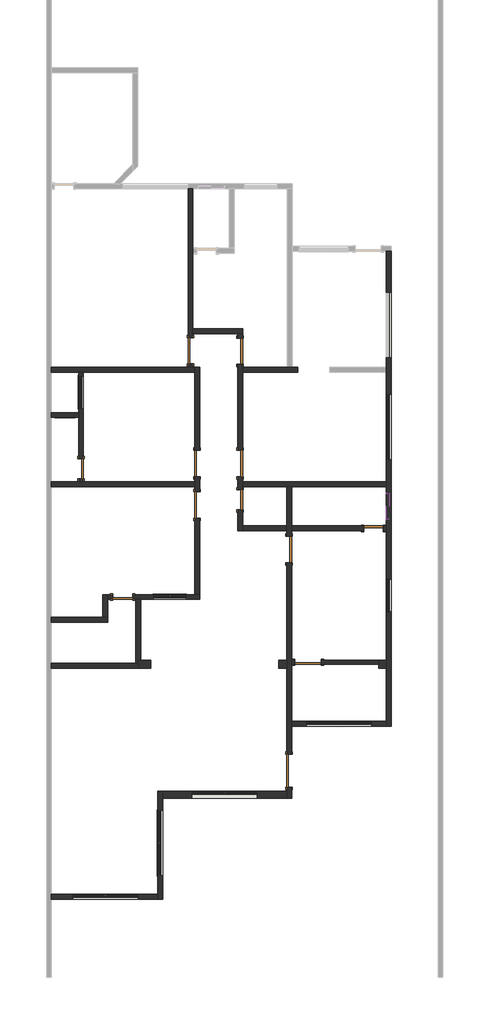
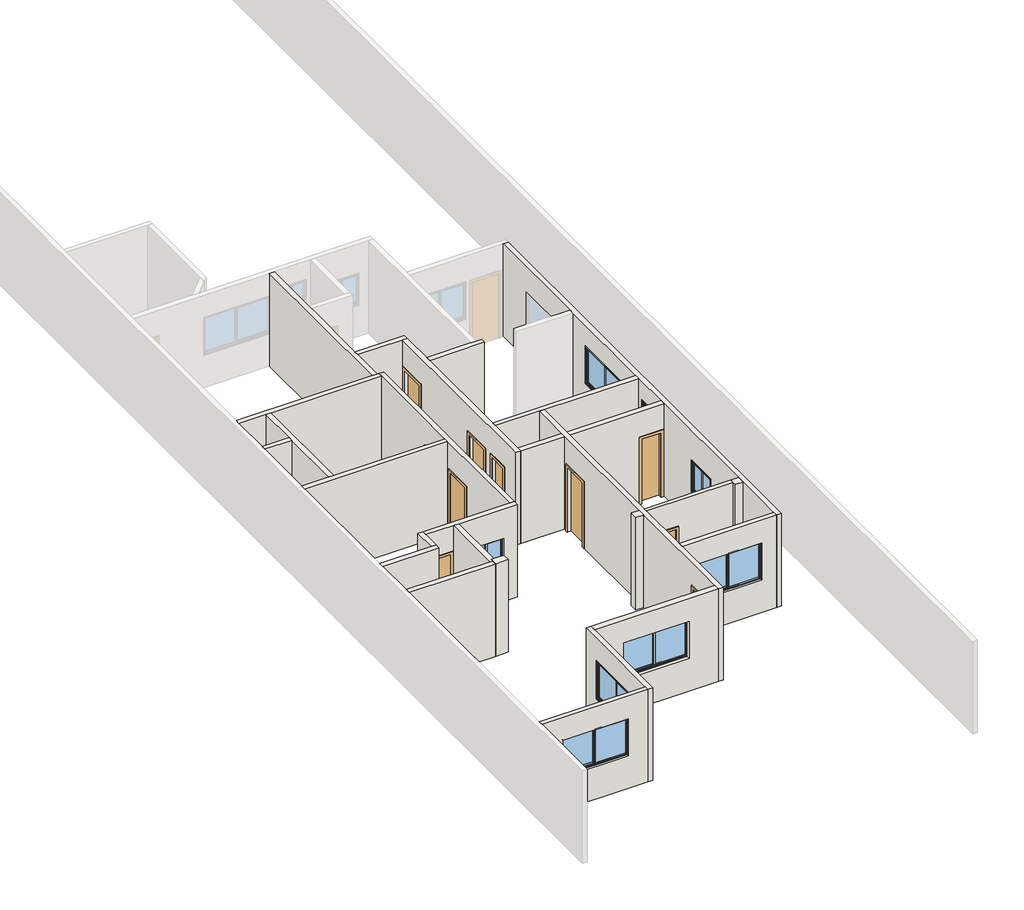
# One storey, part 1 of 2: 26 walls, 12 doors, 10 windows.
"""IFC4 building model written with IfcOpenShell, lengths in millimetres."""

from ifc_helpers import new_model, si_unit, frame, origin, origin_with_axes, place, context, project, spatial, polyline, outline, extrude, faceted_brep, transform, mapped, element, save
from components import door_0_60x2_10_8e608217, door_0_60x2_10_a66e64d3, door_0_80x2_10_8bd717ab, door_0_80x2_10_905e31af, door_0_80x2_10_4eece34f, door_1_00x2_20_66704a89, item_01_2f_janela_de_correr_aluminium_b1_a633d3a6, item_01_2f_janela_de_correr_aluminium_b2_8b62c7b2, item_01_2f_janela_de_correr_aluminium_j1_3e6ac885, item_01_2f_janela_de_correr_aluminium_j1_7eaab267, item_01_2f_janela_de_correr_aluminium_j3_e0c3c169

model = new_model("IFC4")

# Units and contexts
model_context = context("Model", 3, world=origin())
ifc_project = project(units=[si_unit("LENGTHUNIT", "METRE", prefix="MILLI")], contexts=[model_context])

# Site, building, storey
site = spatial("IfcSite", under=ifc_project)
building = spatial("IfcBuilding", under=site)
storey = spatial("IfcBuildingStorey", under=building, Name="Nível 1", Elevation=0.0)

# Doors
placement = place(None, origin())
door_0_60x2_10_shape = door_0_60x2_10_8e608217(model_context)
element("IfcDoor", 1, ObjectType="M_Folha única : 0.60X2.10", at=placement, inside=storey, context=model_context, shape_type="MappedRepresentation", body=[
    mapped(door_0_60x2_10_shape, transform((-3617.7973629, -10055.2839299, 0.0), x_axis=(1.0, 0.0, 0.0), y_axis=(0.0, 1.0, 0.0), z_axis=(0.0, 0.0, 1.0))),
])
element("IfcDoor", 2, ObjectType="M_Folha única : 0.60X2.10", at=placement, inside=storey, context=model_context, shape_type="MappedRepresentation", body=[
    mapped(door_0_60x2_10_shape, transform((-22.7973629, -7080.2839299, 0.0), x_axis=(0.0, 1.0, 0.0), y_axis=(-1.0, 0.0, 0.0), z_axis=(0.0, 0.0, 1.0))),
])
door_0_60x2_10_2_shape = door_0_60x2_10_a66e64d3(model_context)
element("IfcDoor", 3, ObjectType="M_Folha única : 0.60X2.10", at=placement, inside=storey, context=model_context, shape_type="MappedRepresentation", body=[
    mapped(door_0_60x2_10_2_shape, transform((-4892.7973629, -6130.2839299, 0.0), x_axis=(0.0, -1.0, 0.0), y_axis=(1.0, 0.0, 0.0), z_axis=(0.0, 0.0, 1.0))),
])
element("IfcDoor", 4, ObjectType="M_Folha única : 0.60X2.10", at=placement, inside=storey, context=model_context, shape_type="MappedRepresentation", body=[
    mapped(door_0_60x2_10_2_shape, transform((4052.2026371, -7955.2839299, 0.0), x_axis=(1.0, 0.0, 0.0), y_axis=(0.0, 1.0, 0.0), z_axis=(0.0, 0.0, 1.0))),
])
door_0_80x2_10_shape = door_0_80x2_10_8bd717ab(model_context)
element("IfcDoor", 5, ObjectType="M_Folha única : 0.80X2.10", at=placement, inside=storey, context=model_context, shape_type="MappedRepresentation", body=[
    mapped(door_0_80x2_10_shape, transform((-1342.7973629, -5970.2839299, 0.0), x_axis=(0.0, -1.0, 0.0), y_axis=(1.0, 0.0, 0.0), z_axis=(0.0, 0.0, 1.0))),
])
element("IfcDoor", 6, ObjectType="M_Folha única : 0.80X2.10", at=placement, inside=storey, context=model_context, shape_type="MappedRepresentation", body=[
    mapped(door_0_80x2_10_shape, transform((1477.2026371, -8600.2839299, 0.0), x_axis=(0.0, 1.0, 0.0), y_axis=(-1.0, 0.0, 0.0), z_axis=(0.0, 0.0, 1.0))),
])
element("IfcDoor", 7, ObjectType="M_Folha única : 0.80X2.10", at=placement, inside=storey, context=model_context, shape_type="MappedRepresentation", body=[
    mapped(door_0_80x2_10_shape, transform((-1542.7973629, -2515.2839299, 0.0), x_axis=(0.0, -1.0, 0.0), y_axis=(1.0, 0.0, 0.0), z_axis=(0.0, 0.0, 1.0))),
])
door_0_80x2_10_2_shape = door_0_80x2_10_905e31af(model_context)
element("IfcDoor", 8, ObjectType="M_Folha única : 0.80X2.10", at=placement, inside=storey, context=model_context, shape_type="MappedRepresentation", body=[
    mapped(door_0_80x2_10_2_shape, transform((-22.7973629, -5970.2839299, 0.0), x_axis=(0.0, -1.0, 0.0), y_axis=(1.0, 0.0, 0.0), z_axis=(0.0, 0.0, 1.0))),
])
element("IfcDoor", 9, ObjectType="M_Folha única : 0.80X2.10", at=placement, inside=storey, context=model_context, shape_type="MappedRepresentation", body=[
    mapped(door_0_80x2_10_2_shape, transform((-1342.7973629, -7240.2839299, 0.0), x_axis=(0.0, 1.0, 0.0), y_axis=(-1.0, 0.0, 0.0), z_axis=(0.0, 0.0, 1.0))),
])
element("IfcDoor", 10, ObjectType="M_Folha única : 0.80X2.10", at=placement, inside=storey, context=model_context, shape_type="MappedRepresentation", body=[
    mapped(door_0_80x2_10_2_shape, transform((-22.7973629, -2530.2839299, 0.0), x_axis=(0.0, -1.0, 0.0), y_axis=(1.0, 0.0, 0.0), z_axis=(0.0, 0.0, 1.0))),
])
door_0_80x2_10_3_shape = door_0_80x2_10_4eece34f(model_context)
element("IfcDoor", 11, ObjectType="M_Folha única : 0.80X2.10", at=placement, inside=storey, context=model_context, shape_type="MappedRepresentation", body=[
    mapped(door_0_80x2_10_3_shape, transform((2052.2026371, -12050.2839299, 0.0), x_axis=(-1.0, 0.0, 0.0), y_axis=(0.0, -1.0, 0.0), z_axis=(0.0, 0.0, 1.0))),
])
door_1_00x2_20_shape = door_1_00x2_20_66704a89(model_context)
element("IfcDoor", 12, ObjectType="M_Folha única : 1.00X2.20", at=placement, inside=storey, context=model_context, shape_type="MappedRepresentation", body=[
    mapped(door_1_00x2_20_shape, transform((1477.2026371, -15370.2839299, 0.0), x_axis=(0.0, -1.0, 0.0), y_axis=(1.0, 0.0, 0.0), z_axis=(0.0, 0.0, 1.0))),
])

# Walls
element("IfcWall", 13, ObjectType="PAREDE DIVISÓRIA", at=placement, inside=storey, context=model_context, shape_type="SweptSolid", body=[
    extrude(outline(polyline([(0.0, 1552.2026371), (0.0, 1652.2026371), (2100.0, 1652.2026371), (2100.0, 2452.2026371), (0.0, 2452.2026371), (0.0, 4212.2026371), (3000.0, 4212.2026371), (3000.0, 1552.2026371), (0.0, 1552.2026371)])), frame((0.0, -12110.2839299, 0.0), z_axis=(0.0, 1.0, 0.0), x_axis=(0.0, 0.0, 1.0)), (0.0, 0.0, 1.0), 120.0),
])
element("IfcWall", 14, ObjectType="Genérico - 200 mm", at=placement, inside=storey, context=model_context, shape_type="SweptSolid", body=[
    extrude(outline(polyline([(0.0, -2397.7973629), (0.0, 1402.2026371), (3000.0, 1402.2026371), (3000.0, -2397.7973629), (0.0, -2397.7973629)]), holes=[polyline([(1060.0, 502.2026371), (1060.0, -1497.7973629), (2260.0, -1497.7973629), (2260.0, 502.2026371), (1060.0, 502.2026371)])]), frame((0.0, -16205.2839299, 0.0), z_axis=(0.0, 1.0, 0.0), x_axis=(0.0, 0.0, 1.0)), (0.0, 0.0, 1.0), 200.0),
])
element("IfcWall", 15, ObjectType="PAREDE ALVENARIA", at=placement, inside=storey, context=model_context, shape_type="Brep", body=[
    faceted_brep([(4452.2026371, 519.7160701, 0.0), (4452.2026371, -3030.2839299, 0.0), (4452.2026371, -3180.2839299, 0.0), (4452.2026371, -6530.2839299, 0.0), (4452.2026371, -6680.2839299, 0.0), (4452.2026371, -7880.2839299, 0.0), (4452.2026371, -8030.2839299, 0.0), (4452.2026371, -11990.2839299, 0.0), (4452.2026371, -12230.2839299, 0.0), (4452.2026371, -13860.2839299, 0.0), (4452.2026371, -14010.2839299, 0.0), (4452.2026371, -14010.2839299, 3000.0), (4452.2026371, -13860.2839299, 3000.0), (4452.2026371, -12230.2839299, 3000.0), (4452.2026371, -11990.2839299, 3000.0), (4452.2026371, -8030.2839299, 3000.0), (4452.2026371, -7880.2839299, 3000.0), (4452.2026371, -6680.2839299, 3000.0), (4452.2026371, -6530.2839299, 3000.0), (4452.2026371, -3180.2839299, 3000.0), (4452.2026371, -3030.2839299, 3000.0), (4452.2026371, 519.7160701, 3000.0), (4452.2026371, -9510.2839299, 1040.0), (4452.2026371, -9510.2839299, 2040.0), (4452.2026371, -10510.2839299, 2040.0), (4452.2026371, -10510.2839299, 1040.0), (4452.2026371, -730.2839299, 960.0), (4452.2026371, -730.2839299, 2160.0), (4452.2026371, -2730.2839299, 2160.0), (4452.2026371, -2730.2839299, 960.0), (4452.2026371, -3855.2839299, 1120.0), (4452.2026371, -3855.2839299, 2320.0), (4452.2026371, -5855.2839299, 2320.0), (4452.2026371, -5855.2839299, 1120.0), (4452.2026371, -6880.2839299, 1800.0), (4452.2026371, -6880.2839299, 2400.0), (4452.2026371, -7680.2839299, 2400.0), (4452.2026371, -7680.2839299, 1800.0), (4602.2026371, 519.7160701, 0.0), (4602.2026371, 519.7160701, 3000.0), (4602.2026371, -14010.2839299, 3000.0), (4602.2026371, -14010.2839299, 0.0), (4602.2026371, -9510.2839299, 1040.0), (4602.2026371, -10510.2839299, 1040.0), (4602.2026371, -10510.2839299, 2040.0), (4602.2026371, -9510.2839299, 2040.0), (4602.2026371, -730.2839299, 960.0), (4602.2026371, -2730.2839299, 960.0), (4602.2026371, -2730.2839299, 2160.0), (4602.2026371, -730.2839299, 2160.0), (4602.2026371, -3855.2839299, 1120.0), (4602.2026371, -5855.2839299, 1120.0), (4602.2026371, -5855.2839299, 2320.0), (4602.2026371, -3855.2839299, 2320.0), (4602.2026371, -6880.2839299, 1800.0), (4602.2026371, -7680.2839299, 1800.0), (4602.2026371, -7680.2839299, 2400.0), (4602.2026371, -6880.2839299, 2400.0)], [[[0, 1, 2, 3, 4, 5, 6, 7, 8, 9, 10, 11, 12, 13, 14, 15, 16, 17, 18, 19, 20, 21], [22, 23, 24, 25], [26, 27, 28, 29], [30, 31, 32, 33], [34, 35, 36, 37]], [[38, 39, 40, 41], [42, 43, 44, 45], [46, 47, 48, 49], [50, 51, 52, 53], [54, 55, 56, 57]], [[10, 9, 8, 7, 6, 5, 4, 3, 2, 1, 0, 38, 41]], [[21, 20, 19, 18, 17, 16, 15, 14, 13, 12, 11, 40, 39]], [[0, 21, 39, 38]], [[11, 10, 41, 40]], [[23, 22, 42, 45]], [[24, 23, 45, 44]], [[25, 24, 44, 43]], [[22, 25, 43, 42]], [[27, 26, 46, 49]], [[28, 27, 49, 48]], [[29, 28, 48, 47]], [[26, 29, 47, 46]], [[31, 30, 50, 53]], [[32, 31, 53, 52]], [[33, 32, 52, 51]], [[30, 33, 51, 50]], [[35, 34, 54, 57]], [[36, 35, 57, 56]], [[37, 36, 56, 55]], [[34, 37, 55, 54]]]),
])
element("IfcWall", 16, ObjectType="PAREDE ALVENARIA", at=placement, inside=storey, context=model_context, shape_type="SweptSolid", body=[
    extrude(outline(polyline([(0.0, 4452.2026371), (3000.0, 4452.2026371), (3000.0, 1552.2026371), (0.0, 1552.2026371), (0.0, 4452.2026371)]), holes=[polyline([(1060.0, 4002.2026371), (1060.0, 2002.2026371), (2260.0, 2002.2026371), (2260.0, 4002.2026371), (1060.0, 4002.2026371)])]), frame((0.0, -14010.2839299, 0.0), z_axis=(0.0, 1.0, 0.0), x_axis=(0.0, 0.0, 1.0)), (0.0, 0.0, 1.0), 150.0),
])
element("IfcWall", 17, ObjectType="PAREDE ALVENARIA", at=placement, inside=storey, context=model_context, shape_type="Brep", body=[
    faceted_brep([(1402.2026371, -15870.2839299, 2200.0), (1402.2026371, -15870.2839299, 0.0), (1402.2026371, -16005.2839299, 0.0), (1402.2026371, -16205.2839299, 0.0), (1402.2026371, -16205.2839299, 3000.0), (1402.2026371, -16005.2839299, 3000.0), (1402.2026371, -12230.2839299, 3000.0), (1402.2026371, -11990.2839299, 3000.0), (1402.2026371, -8030.2839299, 3000.0), (1402.2026371, -7880.2839299, 3000.0), (1402.2026371, -6680.2839299, 3000.0), (1402.2026371, -6680.2839299, 0.0), (1402.2026371, -7880.2839299, 0.0), (1402.2026371, -8030.2839299, 0.0), (1402.2026371, -8200.2839299, 0.0), (1402.2026371, -8200.2839299, 2100.0), (1402.2026371, -9000.2839299, 2100.0), (1402.2026371, -9000.2839299, 0.0), (1402.2026371, -11990.2839299, 0.0), (1402.2026371, -12230.2839299, 0.0), (1402.2026371, -14870.2839299, 0.0), (1402.2026371, -14870.2839299, 2200.0), (1552.2026371, -16205.2839299, 0.0), (1552.2026371, -15870.2839299, 0.0), (1552.2026371, -15870.2839299, 2200.0), (1552.2026371, -14870.2839299, 2200.0), (1552.2026371, -14870.2839299, 0.0), (1552.2026371, -14010.2839299, 0.0), (1552.2026371, -13860.2839299, 0.0), (1552.2026371, -12110.2839299, 0.0), (1552.2026371, -11990.2839299, 0.0), (1552.2026371, -9000.2839299, 0.0), (1552.2026371, -9000.2839299, 2100.0), (1552.2026371, -8200.2839299, 2100.0), (1552.2026371, -8200.2839299, 0.0), (1552.2026371, -8030.2839299, 0.0), (1552.2026371, -7880.2839299, 0.0), (1552.2026371, -6680.2839299, 0.0), (1552.2026371, -6680.2839299, 3000.0), (1552.2026371, -7880.2839299, 3000.0), (1552.2026371, -8030.2839299, 3000.0), (1552.2026371, -11990.2839299, 3000.0), (1552.2026371, -12110.2839299, 3000.0), (1552.2026371, -13860.2839299, 3000.0), (1552.2026371, -14010.2839299, 3000.0), (1552.2026371, -16205.2839299, 3000.0)], [[[0, 1, 2, 3, 4, 5, 6, 7, 8, 9, 10, 11, 12, 13, 14, 15, 16, 17, 18, 19, 20, 21]], [[22, 23, 24, 25, 26, 27, 28, 29, 30, 31, 32, 33, 34, 35, 36, 37, 38, 39, 40, 41, 42, 43, 44, 45]], [[37, 36, 35, 34, 14, 13, 12, 11]], [[3, 2, 1, 23, 22]], [[20, 19, 18, 17, 31, 30, 29, 28, 27, 26]], [[10, 9, 8, 7, 6, 5, 4, 45, 44, 43, 42, 41, 40, 39, 38]], [[11, 10, 38, 37]], [[15, 14, 34, 33]], [[16, 15, 33, 32]], [[17, 16, 32, 31]], [[24, 23, 1, 0]], [[25, 24, 0, 21]], [[26, 25, 21, 20]], [[4, 3, 22, 45]]]),
])
element("IfcWall", 18, ObjectType="PAREDE ALVENARIA", at=placement, inside=storey, context=model_context, shape_type="Brep", body=[
    faceted_brep([(-2547.7973629, -16005.2839299, 0.0), (-2547.7973629, -19150.2839299, 0.0), (-2547.7973629, -19300.2839299, 0.0), (-2547.7973629, -19300.2839299, 3000.0), (-2547.7973629, -19150.2839299, 3000.0), (-2547.7973629, -16005.2839299, 3000.0), (-2547.7973629, -16580.2839299, 1060.0), (-2547.7973629, -16580.2839299, 2260.0), (-2547.7973629, -18580.2839299, 2260.0), (-2547.7973629, -18580.2839299, 1060.0), (-2397.7973629, -16005.2839299, 0.0), (-2397.7973629, -16005.2839299, 3000.0), (-2397.7973629, -16205.2839299, 3000.0), (-2397.7973629, -19300.2839299, 3000.0), (-2397.7973629, -19300.2839299, 0.0), (-2397.7973629, -16205.2839299, 0.0), (-2397.7973629, -16580.2839299, 1060.0), (-2397.7973629, -18580.2839299, 1060.0), (-2397.7973629, -18580.2839299, 2260.0), (-2397.7973629, -16580.2839299, 2260.0)], [[[0, 1, 2, 3, 4, 5], [6, 7, 8, 9]], [[10, 11, 12, 13, 14, 15], [16, 17, 18, 19]], [[2, 1, 0, 10, 15, 14]], [[5, 4, 3, 13, 12, 11]], [[3, 2, 14, 13]], [[7, 6, 16, 19]], [[8, 7, 19, 18]], [[9, 8, 18, 17]], [[6, 9, 17, 16]], [[0, 5, 11, 10]]]),
])
element("IfcWall", 19, ObjectType="PAREDE ALVENARIA", at=placement, inside=storey, context=model_context, shape_type="SweptSolid", body=[
    extrude(outline(polyline([(0.0, -2547.7973629), (3000.0, -2547.7973629), (3000.0, -5797.7973629), (0.0, -5797.7973629), (0.0, -2547.7973629)]), holes=[polyline([(1060.0, -3147.7973629), (1060.0, -5147.7973629), (2260.0, -5147.7973629), (2260.0, -3147.7973629), (1060.0, -3147.7973629)])]), frame((0.0, -19300.2839299, 0.0), z_axis=(0.0, 1.0, 0.0), x_axis=(0.0, 0.0, 1.0)), (0.0, 0.0, 1.0), 150.0),
])
element("IfcWall", 20, ObjectType="PAREDE ALVENARIA", at=placement, inside=storey, context=model_context, shape_type="Brep", body=[
    faceted_brep([(-5797.7973629, -12230.2839299, 0.0), (-3142.7973629, -12230.2839299, 0.0), (-3142.7973629, -12230.2839299, 3000.0), (-5797.7973629, -12230.2839299, 3000.0), (-5797.7973629, -12080.2839299, 0.0), (-5797.7973629, -12080.2839299, 3000.0), (-3217.7973629, -12080.2839299, 3000.0), (-3142.7973629, -12080.2839299, 3000.0), (-3142.7973629, -12080.2839299, 0.0), (-3217.7973629, -12080.2839299, 0.0)], [[[0, 1, 2, 3]], [[4, 5, 6, 7, 8, 9]], [[1, 0, 4, 9, 8]], [[2, 1, 8, 7]], [[3, 2, 7, 6, 5]], [[0, 3, 5, 4]]]),
])
element("IfcWall", 21, ObjectType="PAREDE ALVENARIA", at=placement, inside=storey, context=model_context, shape_type="SweptSolid", body=[
    extrude(outline(polyline([(-3067.7973629, -10130.2839299), (-3067.7973629, -11990.2839299), (-3142.7973629, -11990.2839299), (-3142.7973629, -12080.2839299), (-3217.7973629, -12080.2839299), (-3217.7973629, -10130.2839299), (-3067.7973629, -10130.2839299)])), origin_with_axes(), (0.0, 0.0, 1.0), 3000.0),
])
element("IfcWall", 22, ObjectType="PAREDE ALVENARIA", at=placement, inside=storey, context=model_context, shape_type="Brep", body=[
    faceted_brep([(-5797.7973629, -10830.2839299, 0.0), (-4077.7973629, -10830.2839299, 0.0), (-4077.7973629, -10830.2839299, 3000.0), (-5797.7973629, -10830.2839299, 3000.0), (-5797.7973629, -10680.2839299, 0.0), (-5797.7973629, -10680.2839299, 3000.0), (-4227.7973629, -10680.2839299, 3000.0), (-4077.7973629, -10680.2839299, 3000.0), (-4077.7973629, -10680.2839299, 0.0), (-4227.7973629, -10680.2839299, 0.0)], [[[0, 1, 2, 3]], [[4, 5, 6, 7, 8, 9]], [[1, 0, 4, 9, 8]], [[3, 2, 7, 6, 5]], [[2, 1, 8, 7]], [[0, 3, 5, 4]]]),
])
element("IfcWall", 23, ObjectType="PAREDE ALVENARIA", at=placement, inside=storey, context=model_context, shape_type="Brep", body=[
    faceted_brep([(-4077.7973629, -10680.2839299, 0.0), (-4077.7973629, -10130.2839299, 0.0), (-4077.7973629, -9980.2839299, 0.0), (-4077.7973629, -9980.2839299, 3000.0), (-4077.7973629, -10130.2839299, 3000.0), (-4077.7973629, -10680.2839299, 3000.0), (-4227.7973629, -10680.2839299, 0.0), (-4227.7973629, -10680.2839299, 3000.0), (-4227.7973629, -9980.2839299, 3000.0), (-4227.7973629, -9980.2839299, 0.0)], [[[0, 1, 2, 3, 4, 5]], [[6, 7, 8, 9]], [[2, 1, 0, 6, 9]], [[5, 4, 3, 8, 7]], [[0, 5, 7, 6]], [[3, 2, 9, 8]]]),
])
element("IfcWall", 24, ObjectType="PAREDE ALVENARIA", at=placement, inside=storey, context=model_context, shape_type="Brep", body=[
    faceted_brep([(-3317.7973629, -10130.2839299, 2100.0), (-3317.7973629, -10130.2839299, 0.0), (-3217.7973629, -10130.2839299, 0.0), (-3067.7973629, -10130.2839299, 0.0), (-1267.7973629, -10130.2839299, 0.0), (-1267.7973629, -10130.2839299, 3000.0), (-3067.7973629, -10130.2839299, 3000.0), (-3217.7973629, -10130.2839299, 3000.0), (-4077.7973629, -10130.2839299, 3000.0), (-4077.7973629, -10130.2839299, 0.0), (-3917.7973629, -10130.2839299, 0.0), (-3917.7973629, -10130.2839299, 2100.0), (-1677.7973629, -10130.2839299, 1040.0), (-2677.7973629, -10130.2839299, 1040.0), (-2677.7973629, -10130.2839299, 2040.0), (-1677.7973629, -10130.2839299, 2040.0), (-1267.7973629, -9980.2839299, 0.0), (-1417.7973629, -9980.2839299, 0.0), (-3317.7973629, -9980.2839299, 0.0), (-3317.7973629, -9980.2839299, 2100.0), (-3917.7973629, -9980.2839299, 2100.0), (-3917.7973629, -9980.2839299, 0.0), (-4077.7973629, -9980.2839299, 0.0), (-4077.7973629, -9980.2839299, 3000.0), (-1417.7973629, -9980.2839299, 3000.0), (-1267.7973629, -9980.2839299, 3000.0), (-1677.7973629, -9980.2839299, 1040.0), (-1677.7973629, -9980.2839299, 2040.0), (-2677.7973629, -9980.2839299, 2040.0), (-2677.7973629, -9980.2839299, 1040.0)], [[[0, 1, 2, 3, 4, 5, 6, 7, 8, 9, 10, 11], [12, 13, 14, 15]], [[16, 17, 18, 19, 20, 21, 22, 23, 24, 25], [26, 27, 28, 29]], [[10, 9, 22, 21]], [[4, 3, 2, 1, 18, 17, 16]], [[8, 7, 6, 5, 25, 24, 23]], [[9, 8, 23, 22]], [[5, 4, 16, 25]], [[19, 18, 1, 0]], [[20, 19, 0, 11]], [[21, 20, 11, 10]], [[27, 26, 12, 15]], [[28, 27, 15, 14]], [[29, 28, 14, 13]], [[26, 29, 13, 12]]]),
])
element("IfcWall", 25, ObjectType="PAREDE ALVENARIA", at=placement, inside=storey, context=model_context, shape_type="Brep", body=[
    faceted_brep([(-1267.7973629, -6840.2839299, 2100.0), (-1267.7973629, -6840.2839299, 0.0), (-1267.7973629, -6370.2839299, 0.0), (-1267.7973629, -6370.2839299, 2100.0), (-1267.7973629, -5570.2839299, 2100.0), (-1267.7973629, -5570.2839299, 0.0), (-1267.7973629, -3030.2839299, 0.0), (-1267.7973629, -3030.2839299, 3000.0), (-1267.7973629, -9980.2839299, 3000.0), (-1267.7973629, -9980.2839299, 0.0), (-1267.7973629, -7640.2839299, 0.0), (-1267.7973629, -7640.2839299, 2100.0), (-1417.7973629, -6370.2839299, 0.0), (-1417.7973629, -6530.2839299, 0.0), (-1417.7973629, -6680.2839299, 0.0), (-1417.7973629, -6840.2839299, 0.0), (-1417.7973629, -6840.2839299, 2100.0), (-1417.7973629, -7640.2839299, 2100.0), (-1417.7973629, -7640.2839299, 0.0), (-1417.7973629, -9980.2839299, 0.0), (-1417.7973629, -9980.2839299, 3000.0), (-1417.7973629, -6680.2839299, 3000.0), (-1417.7973629, -6530.2839299, 3000.0), (-1417.7973629, -3180.2839299, 3000.0), (-1417.7973629, -3030.2839299, 3000.0), (-1417.7973629, -3030.2839299, 0.0), (-1417.7973629, -3180.2839299, 0.0), (-1417.7973629, -5570.2839299, 0.0), (-1417.7973629, -5570.2839299, 2100.0), (-1417.7973629, -6370.2839299, 2100.0)], [[[0, 1, 2, 3, 4, 5, 6, 7, 8, 9, 10, 11]], [[12, 13, 14, 15, 16, 17, 18, 19, 20, 21, 22, 23, 24, 25, 26, 27, 28, 29]], [[27, 26, 25, 6, 5]], [[10, 9, 19, 18]], [[2, 1, 15, 14, 13, 12]], [[8, 7, 24, 23, 22, 21, 20]], [[9, 8, 20, 19]], [[7, 6, 25, 24]], [[3, 2, 12, 29]], [[4, 3, 29, 28]], [[5, 4, 28, 27]], [[16, 15, 1, 0]], [[17, 16, 0, 11]], [[18, 17, 11, 10]]]),
])
element("IfcWall", 26, ObjectType="PAREDE ALVENARIA", at=placement, inside=storey, context=model_context, shape_type="Brep", body=[
    faceted_brep([(-5797.7973629, -6680.2839299, 0.0), (-1417.7973629, -6680.2839299, 0.0), (-1417.7973629, -6680.2839299, 3000.0), (-5797.7973629, -6680.2839299, 3000.0), (-5797.7973629, -6530.2839299, 0.0), (-5797.7973629, -6530.2839299, 3000.0), (-4967.7973629, -6530.2839299, 3000.0), (-4817.7973629, -6530.2839299, 3000.0), (-1417.7973629, -6530.2839299, 3000.0), (-1417.7973629, -6530.2839299, 0.0), (-4817.7973629, -6530.2839299, 0.0), (-4967.7973629, -6530.2839299, 0.0)], [[[0, 1, 2, 3]], [[4, 5, 6, 7, 8, 9, 10, 11]], [[1, 0, 4, 11, 10, 9]], [[3, 2, 8, 7, 6, 5]], [[2, 1, 9, 8]], [[0, 3, 5, 4]]]),
])
element("IfcWall", 27, ObjectType="PAREDE ALVENARIA", at=placement, inside=storey, context=model_context, shape_type="Brep", body=[
    faceted_brep([(-5797.7973629, -3180.2839299, 0.0), (-4967.7973629, -3180.2839299, 0.0), (-4817.7973629, -3180.2839299, 0.0), (-1417.7973629, -3180.2839299, 0.0), (-1417.7973629, -3180.2839299, 3000.0), (-4817.7973629, -3180.2839299, 3000.0), (-4967.7973629, -3180.2839299, 3000.0), (-5797.7973629, -3180.2839299, 3000.0), (-5797.7973629, -3030.2839299, 0.0), (-5797.7973629, -3030.2839299, 3000.0), (-1617.7973629, -3030.2839299, 3000.0), (-1467.7973629, -3030.2839299, 3000.0), (-1417.7973629, -3030.2839299, 3000.0), (-1417.7973629, -3030.2839299, 0.0), (-1467.7973629, -3030.2839299, 0.0), (-1617.7973629, -3030.2839299, 0.0)], [[[0, 1, 2, 3, 4, 5, 6, 7]], [[8, 9, 10, 11, 12, 13, 14, 15]], [[3, 2, 1, 0, 8, 15, 14, 13]], [[7, 6, 5, 4, 12, 11, 10, 9]], [[4, 3, 13, 12]], [[0, 7, 9, 8]]]),
])
element("IfcWall", 28, ObjectType="PAREDE ALVENARIA", at=placement, inside=storey, context=model_context, shape_type="Brep", body=[
    faceted_brep([(-1467.7973629, -3030.2839299, 0.0), (-1467.7973629, -2915.2839299, 0.0), (-1467.7973629, -2915.2839299, 2100.0), (-1467.7973629, -2115.2839299, 2100.0), (-1467.7973629, -2115.2839299, 0.0), (-1467.7973629, -2000.2839299, 0.0), (-1467.7973629, -1850.2839299, 0.0), (-1467.7973629, 459.7160701, 0.0), (-1467.7973629, 609.7160701, 0.0), (-1467.7973629, 2439.7160701, 0.0), (-1467.7973629, 2439.7160701, 3000.0), (-1467.7973629, 609.7160701, 3000.0), (-1467.7973629, 459.7160701, 3000.0), (-1467.7973629, -1850.2839299, 3000.0), (-1467.7973629, -2000.2839299, 3000.0), (-1467.7973629, -3030.2839299, 3000.0), (-1617.7973629, -2915.2839299, 2100.0), (-1617.7973629, -2915.2839299, 0.0), (-1617.7973629, -3030.2839299, 0.0), (-1617.7973629, -3030.2839299, 3000.0), (-1617.7973629, 2439.7160701, 3000.0), (-1617.7973629, 2439.7160701, 2260.0), (-1617.7973629, 2439.7160701, 1060.0), (-1617.7973629, 2439.7160701, 0.0), (-1617.7973629, -2115.2839299, 0.0), (-1617.7973629, -2115.2839299, 2100.0)], [[[0, 1, 2, 3, 4, 5, 6, 7, 8, 9, 10, 11, 12, 13, 14, 15]], [[16, 17, 18, 19, 20, 21, 22, 23, 24, 25]], [[24, 23, 9, 8, 7, 6, 5, 4]], [[18, 17, 1, 0]], [[15, 14, 13, 12, 11, 10, 20, 19]], [[10, 9, 23, 22, 21, 20]], [[0, 15, 19, 18]], [[2, 1, 17, 16]], [[3, 2, 16, 25]], [[4, 3, 25, 24]]]),
])
element("IfcWall", 29, ObjectType="PAREDE ALVENARIA", at=placement, inside=storey, context=model_context, shape_type="Brep", body=[
    faceted_brep([(-1467.7973629, -2000.2839299, 0.0), (-97.7973629, -2000.2839299, 0.0), (52.2026371, -2000.2839299, 0.0), (52.2026371, -2000.2839299, 3000.0), (-97.7973629, -2000.2839299, 3000.0), (-1467.7973629, -2000.2839299, 3000.0), (-1467.7973629, -1850.2839299, 0.0), (-1467.7973629, -1850.2839299, 3000.0), (52.2026371, -1850.2839299, 3000.0), (52.2026371, -1850.2839299, 0.0)], [[[0, 1, 2, 3, 4, 5]], [[6, 7, 8, 9]], [[2, 1, 0, 6, 9]], [[5, 4, 3, 8, 7]], [[0, 5, 7, 6]], [[3, 2, 9, 8]]]),
])
element("IfcWall", 30, ObjectType="PAREDE ALVENARIA", at=placement, inside=storey, context=model_context, shape_type="Brep", body=[
    faceted_brep([(-97.7973629, -6370.2839299, 0.0), (-97.7973629, -6780.2839299, 0.0), (-97.7973629, -6780.2839299, 2100.0), (-97.7973629, -7380.2839299, 2100.0), (-97.7973629, -7380.2839299, 0.0), (-97.7973629, -8030.2839299, 0.0), (-97.7973629, -8030.2839299, 3000.0), (-97.7973629, -2000.2839299, 3000.0), (-97.7973629, -2000.2839299, 0.0), (-97.7973629, -2130.2839299, 0.0), (-97.7973629, -2130.2839299, 2100.0), (-97.7973629, -2930.2839299, 2100.0), (-97.7973629, -2930.2839299, 0.0), (-97.7973629, -5570.2839299, 0.0), (-97.7973629, -5570.2839299, 2100.0), (-97.7973629, -6370.2839299, 2100.0), (52.2026371, -6780.2839299, 2100.0), (52.2026371, -6780.2839299, 0.0), (52.2026371, -6680.2839299, 0.0), (52.2026371, -6530.2839299, 0.0), (52.2026371, -6370.2839299, 0.0), (52.2026371, -6370.2839299, 2100.0), (52.2026371, -5570.2839299, 2100.0), (52.2026371, -5570.2839299, 0.0), (52.2026371, -3180.2839299, 0.0), (52.2026371, -3030.2839299, 0.0), (52.2026371, -2930.2839299, 0.0), (52.2026371, -2930.2839299, 2100.0), (52.2026371, -2130.2839299, 2100.0), (52.2026371, -2130.2839299, 0.0), (52.2026371, -2000.2839299, 0.0), (52.2026371, -2000.2839299, 3000.0), (52.2026371, -3030.2839299, 3000.0), (52.2026371, -3180.2839299, 3000.0), (52.2026371, -6530.2839299, 3000.0), (52.2026371, -6680.2839299, 3000.0), (52.2026371, -7880.2839299, 3000.0), (52.2026371, -8030.2839299, 3000.0), (52.2026371, -8030.2839299, 0.0), (52.2026371, -7880.2839299, 0.0), (52.2026371, -7380.2839299, 0.0), (52.2026371, -7380.2839299, 2100.0)], [[[0, 1, 2, 3, 4, 5, 6, 7, 8, 9, 10, 11, 12, 13, 14, 15]], [[16, 17, 18, 19, 20, 21, 22, 23, 24, 25, 26, 27, 28, 29, 30, 31, 32, 33, 34, 35, 36, 37, 38, 39, 40, 41]], [[9, 8, 30, 29]], [[13, 12, 26, 25, 24, 23]], [[40, 39, 38, 5, 4]], [[20, 19, 18, 17, 1, 0]], [[7, 6, 37, 36, 35, 34, 33, 32, 31]], [[8, 7, 31, 30]], [[6, 5, 38, 37]], [[21, 20, 0, 15]], [[22, 21, 15, 14]], [[23, 22, 14, 13]], [[27, 26, 12, 11]], [[28, 27, 11, 10]], [[29, 28, 10, 9]], [[2, 1, 17, 16]], [[3, 2, 16, 41]], [[4, 3, 41, 40]]]),
])
element("IfcWall", 31, ObjectType="PAREDE ALVENARIA", at=placement, inside=storey, context=model_context, shape_type="Brep", body=[
    faceted_brep([(52.2026371, -3180.2839299, 0.0), (1737.2026371, -3180.2839299, 0.0), (1737.2026371, -3180.2839299, 3000.0), (52.2026371, -3180.2839299, 3000.0), (52.2026371, -3030.2839299, 0.0), (52.2026371, -3030.2839299, 3000.0), (1422.2026371, -3030.2839299, 3000.0), (1572.2026371, -3030.2839299, 3000.0), (1737.2026371, -3030.2839299, 3000.0), (1737.2026371, -3030.2839299, 0.0), (1572.2026371, -3030.2839299, 0.0), (1422.2026371, -3030.2839299, 0.0)], [[[0, 1, 2, 3]], [[4, 5, 6, 7, 8, 9, 10, 11]], [[1, 0, 4, 11, 10, 9]], [[2, 1, 9, 8]], [[3, 2, 8, 7, 6, 5]], [[0, 3, 5, 4]]]),
])
element("IfcWall", 32, ObjectType="PAREDE ALVENARIA", at=placement, inside=storey, context=model_context, shape_type="SweptSolid", body=[
    extrude(outline(polyline([(0.0, 4452.2026371), (3000.0, 4452.2026371), (3000.0, 1552.2026371), (0.0, 1552.2026371), (0.0, 3752.2026371), (2100.0, 3752.2026371), (2100.0, 4352.2026371), (0.0, 4352.2026371), (0.0, 4452.2026371)])), frame((0.0, -8030.2839299, 0.0), z_axis=(0.0, 1.0, 0.0), x_axis=(0.0, 0.0, 1.0)), (0.0, 0.0, 1.0), 150.0),
    extrude(outline(polyline([(52.2026371, -8030.2839299), (52.2026371, -7880.2839299), (1402.2026371, -7880.2839299), (1402.2026371, -8030.2839299), (52.2026371, -8030.2839299)])), origin_with_axes(), (0.0, 0.0, 1.0), 3000.0),
])
element("IfcWall", 33, ObjectType="PAREDE ALVENARIA", at=placement, inside=storey, context=model_context, shape_type="Brep", body=[
    faceted_brep([(52.2026371, -6680.2839299, 0.0), (1402.2026371, -6680.2839299, 0.0), (1552.2026371, -6680.2839299, 0.0), (4452.2026371, -6680.2839299, 0.0), (4452.2026371, -6680.2839299, 3000.0), (1552.2026371, -6680.2839299, 3000.0), (1402.2026371, -6680.2839299, 3000.0), (52.2026371, -6680.2839299, 3000.0), (52.2026371, -6530.2839299, 0.0), (52.2026371, -6530.2839299, 3000.0), (4452.2026371, -6530.2839299, 3000.0), (4452.2026371, -6530.2839299, 0.0)], [[[0, 1, 2, 3, 4, 5, 6, 7]], [[8, 9, 10, 11]], [[3, 2, 1, 0, 8, 11]], [[7, 6, 5, 4, 10, 9]], [[4, 3, 11, 10]], [[0, 7, 9, 8]]]),
])
element("IfcWall", 34, ObjectType="PAREDE ALVENARIA", at=placement, inside=storey, context=model_context, shape_type="Brep", body=[
    faceted_brep([(-4967.7973629, -6430.2839299, 2100.0), (-4967.7973629, -6430.2839299, 0.0), (-4967.7973629, -6530.2839299, 0.0), (-4967.7973629, -6530.2839299, 3000.0), (-4967.7973629, -4560.2839299, 3000.0), (-4967.7973629, -4410.2839299, 3000.0), (-4967.7973629, -3180.2839299, 3000.0), (-4967.7973629, -3180.2839299, 0.0), (-4967.7973629, -4410.2839299, 0.0), (-4967.7973629, -4560.2839299, 0.0), (-4967.7973629, -5830.2839299, 0.0), (-4967.7973629, -5830.2839299, 2100.0), (-4967.7973629, -3295.2839299, 1040.0), (-4967.7973629, -3295.2839299, 2040.0), (-4967.7973629, -4295.2839299, 2040.0), (-4967.7973629, -4295.2839299, 1040.0), (-4817.7973629, -6530.2839299, 0.0), (-4817.7973629, -6430.2839299, 0.0), (-4817.7973629, -6430.2839299, 2100.0), (-4817.7973629, -5830.2839299, 2100.0), (-4817.7973629, -5830.2839299, 0.0), (-4817.7973629, -3180.2839299, 0.0), (-4817.7973629, -3180.2839299, 3000.0), (-4817.7973629, -6530.2839299, 3000.0), (-4817.7973629, -3295.2839299, 1040.0), (-4817.7973629, -4295.2839299, 1040.0), (-4817.7973629, -4295.2839299, 2040.0), (-4817.7973629, -3295.2839299, 2040.0)], [[[0, 1, 2, 3, 4, 5, 6, 7, 8, 9, 10, 11], [12, 13, 14, 15]], [[16, 17, 18, 19, 20, 21, 22, 23], [24, 25, 26, 27]], [[2, 1, 17, 16]], [[10, 9, 8, 7, 21, 20]], [[6, 5, 4, 3, 23, 22]], [[3, 2, 16, 23]], [[7, 6, 22, 21]], [[18, 17, 1, 0]], [[19, 18, 0, 11]], [[20, 19, 11, 10]], [[13, 12, 24, 27]], [[14, 13, 27, 26]], [[15, 14, 26, 25]], [[12, 15, 25, 24]]]),
])
element("IfcWall", 35, ObjectType="PAREDE ALVENARIA", at=placement, inside=storey, context=model_context, shape_type="SweptSolid", body=[
    extrude(outline(polyline([(0.0, -5797.7973629), (0.0, -4967.7973629), (3000.0, -4967.7973629), (3000.0, -5797.7973629), (0.0, -5797.7973629)]), holes=[polyline([(800.0, -5682.7973629), (1200.0, -5682.7973629), (1200.0, -5082.7973629), (800.0, -5082.7973629), (800.0, -5682.7973629)])]), frame((0.0, -4560.2839299, 0.0), z_axis=(0.0, 1.0, 0.0), x_axis=(0.0, 0.0, 1.0)), (0.0, 0.0, 1.0), 150.0),
])
element("IfcWall", 36, ObjectType="PILAR", at=placement, inside=storey, context=model_context, shape_type="Brep", body=[
    faceted_brep([(4212.2026371, -12230.2839299, 0.0), (4452.2026371, -12230.2839299, 0.0), (4452.2026371, -12230.2839299, 3000.0), (4212.2026371, -12230.2839299, 3000.0), (4212.2026371, -11990.2839299, 0.0), (4212.2026371, -11990.2839299, 3000.0), (4452.2026371, -11990.2839299, 3000.0), (4452.2026371, -11990.2839299, 0.0), (4212.2026371, -12110.2839299, 0.0), (4212.2026371, -12110.2839299, 3000.0)], [[[0, 1, 2, 3]], [[4, 5, 6, 7]], [[1, 0, 8, 4, 7]], [[3, 2, 6, 5, 9]], [[0, 3, 9, 5, 4, 8]], [[2, 1, 7, 6]]]),
])
element("IfcWall", 37, ObjectType="PILAR", at=placement, inside=storey, context=model_context, shape_type="SweptSolid", body=[
    extrude(outline(polyline([(1402.2026371, -12230.2839299), (1162.2026371, -12230.2839299), (1162.2026371, -11990.2839299), (1402.2026371, -11990.2839299), (1402.2026371, -12230.2839299)])), origin_with_axes(), (0.0, 0.0, 1.0), 3000.0),
])
element("IfcWall", 38, ObjectType="PILAR", at=placement, inside=storey, context=model_context, shape_type="Brep", body=[
    faceted_brep([(-2757.7973629, -11990.2839299, 0.0), (-3067.7973629, -11990.2839299, 0.0), (-3142.7973629, -11990.2839299, 0.0), (-3142.7973629, -11990.2839299, 3000.0), (-3067.7973629, -11990.2839299, 3000.0), (-2757.7973629, -11990.2839299, 3000.0), (-2757.7973629, -12230.2839299, 0.0), (-2757.7973629, -12230.2839299, 3000.0), (-3142.7973629, -12230.2839299, 3000.0), (-3142.7973629, -12230.2839299, 0.0), (-3142.7973629, -12080.2839299, 0.0), (-3142.7973629, -12080.2839299, 3000.0)], [[[0, 1, 2, 3, 4, 5]], [[6, 7, 8, 9]], [[2, 1, 0, 6, 9, 10]], [[3, 2, 10, 9, 8, 11]], [[5, 4, 3, 11, 8, 7]], [[0, 5, 7, 6]]]),
])

# Windows
item_01_2f_janela_de_correr_aluminium_b1_shape = item_01_2f_janela_de_correr_aluminium_b1_a633d3a6(model_context)
element("IfcWindow", 39, ObjectType="Item 01 - 2F Janela de correr Aluminium : B1", at=placement, inside=storey, context=model_context, shape_type="MappedRepresentation", body=[
    mapped(item_01_2f_janela_de_correr_aluminium_b1_shape, transform((4527.2026371, -7280.2839299, 1000.0), x_axis=(0.0, -1.0, 0.0), y_axis=(1.0, 0.0, 0.0), z_axis=(0.0, 0.0, 1.0))),
])
item_01_2f_janela_de_correr_aluminium_b2_shape = item_01_2f_janela_de_correr_aluminium_b2_8b62c7b2(model_context)
element("IfcWindow", 40, ObjectType="Item 01 - 2F Janela de correr Aluminium : B2", at=placement, inside=storey, context=model_context, shape_type="MappedRepresentation", body=[
    mapped(item_01_2f_janela_de_correr_aluminium_b2_shape, transform((-5382.7973629, -4485.2839299, 0.0), x_axis=(1.0, 0.0, 0.0), y_axis=(0.0, 1.0, 0.0), z_axis=(0.0, 0.0, 1.0))),
])
item_01_2f_janela_de_correr_aluminium_j1_shape = item_01_2f_janela_de_correr_aluminium_j1_3e6ac885(model_context)
element("IfcWindow", 41, ObjectType="Item 01 - 2F Janela de correr Aluminium : J1", at=placement, inside=storey, context=model_context, shape_type="MappedRepresentation", body=[
    mapped(item_01_2f_janela_de_correr_aluminium_j1_shape, transform((-2472.7973629, -17580.2839299, 260.0), x_axis=(0.0, -1.0, 0.0), y_axis=(1.0, 0.0, 0.0), z_axis=(0.0, 0.0, 1.0))),
])
element("IfcWindow", 42, ObjectType="Item 01 - 2F Janela de correr Aluminium : J1", at=placement, inside=storey, context=model_context, shape_type="MappedRepresentation", body=[
    mapped(item_01_2f_janela_de_correr_aluminium_j1_shape, transform((3002.2026371, -13935.2839299, 260.0), x_axis=(-1.0, 0.0, 0.0), y_axis=(0.0, -1.0, 0.0), z_axis=(0.0, 0.0, 1.0))),
])
element("IfcWindow", 43, ObjectType="Item 01 - 2F Janela de correr Aluminium : J1", at=placement, inside=storey, context=model_context, shape_type="MappedRepresentation", body=[
    mapped(item_01_2f_janela_de_correr_aluminium_j1_shape, transform((-4147.7973629, -19225.2839299, 260.0), x_axis=(-1.0, 0.0, 0.0), y_axis=(0.0, -1.0, 0.0), z_axis=(0.0, 0.0, 1.0))),
])
item_01_2f_janela_de_correr_aluminium_j1_2_shape = item_01_2f_janela_de_correr_aluminium_j1_7eaab267(model_context)
element("IfcWindow", 44, ObjectType="Item 01 - 2F Janela de correr Aluminium : J1", at=placement, inside=storey, context=model_context, shape_type="MappedRepresentation", body=[
    mapped(item_01_2f_janela_de_correr_aluminium_j1_2_shape, transform((-497.7973629, -16105.2839299, 260.0), x_axis=(-1.0, 0.0, 0.0), y_axis=(0.0, -1.0, 0.0), z_axis=(0.0, 0.0, 1.0))),
])
item_01_2f_janela_de_correr_aluminium_j3_shape = item_01_2f_janela_de_correr_aluminium_j3_e0c3c169(model_context)
element("IfcWindow", 45, ObjectType="Item 01 - 2F Janela de correr Aluminium : J3", at=placement, inside=storey, context=model_context, shape_type="MappedRepresentation", body=[
    mapped(item_01_2f_janela_de_correr_aluminium_j3_shape, transform((4527.2026371, -10010.2839299, 240.0), x_axis=(0.0, -1.0, 0.0), y_axis=(1.0, 0.0, 0.0), z_axis=(0.0, 0.0, 1.0))),
])
element("IfcWindow", 46, ObjectType="Item 01 - 2F Janela de correr Aluminium : J3", at=placement, inside=storey, context=model_context, shape_type="MappedRepresentation", body=[
    mapped(item_01_2f_janela_de_correr_aluminium_j3_shape, transform((-2177.7973629, -10055.2839299, 240.0), x_axis=(-1.0, 0.0, 0.0), y_axis=(0.0, -1.0, 0.0), z_axis=(0.0, 0.0, 1.0))),
])
element("IfcWindow", 47, ObjectType="Item 01 - 2F Janela de correr Aluminium : J3", at=placement, inside=storey, context=model_context, shape_type="MappedRepresentation", body=[
    mapped(item_01_2f_janela_de_correr_aluminium_j3_shape, transform((-4892.7973629, -3795.2839299, 240.0), x_axis=(0.0, -1.0, 0.0), y_axis=(1.0, 0.0, 0.0), z_axis=(0.0, 0.0, 1.0))),
])
element("IfcWindow", 48, ObjectType="Item 01 - 2F Janela de correr Aluminium : J6", at=placement, inside=storey, context=model_context, shape_type="MappedRepresentation", body=[
    mapped(item_01_2f_janela_de_correr_aluminium_j1_shape, transform((4527.2026371, -4855.2839299, 320.0), x_axis=(0.0, -1.0, 0.0), y_axis=(1.0, 0.0, 0.0), z_axis=(0.0, 0.0, 1.0))),
])

save(model, "model.ifc")
